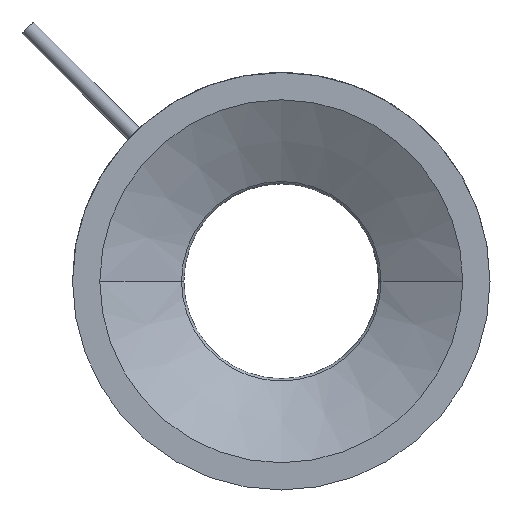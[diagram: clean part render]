
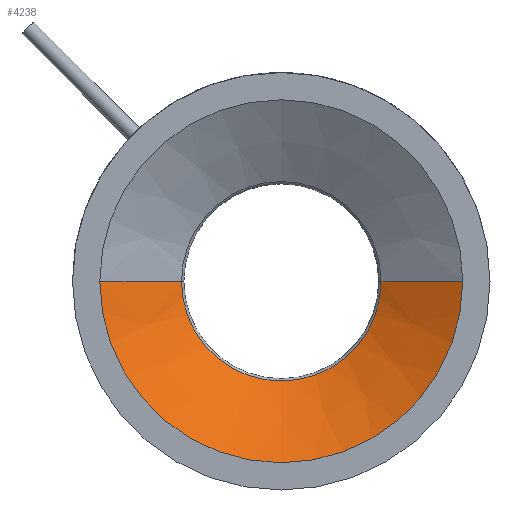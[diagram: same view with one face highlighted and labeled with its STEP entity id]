
A CAD part, front view. The second image highlights one B-rep face of the part: STEP entity #4238.
In plain terms, the highlighted conical face has half-angle 60 degrees and reference radius 30.311 mm.
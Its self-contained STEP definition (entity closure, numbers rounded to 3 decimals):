
#3975=CARTESIAN_POINT('',(0.,-11.826,0.));
#3976=DIRECTION('',(0.,-1.,0.));
#3977=DIRECTION('',(-1.,0.,0.));
#3978=AXIS2_PLACEMENT_3D('',#3975,#3976,#3977);
#3980=DIRECTION('',(-0.866,0.5,0.));
#3981=VECTOR('',#3980,20.349);
#3982=CARTESIAN_POINT('',(39.122,-22.,0.));
#3983=LINE('',#3982,#3981);
#3984=CARTESIAN_POINT('',(0.,-22.,0.));
#3985=DIRECTION('',(0.,-1.,0.));
#3986=DIRECTION('',(-1.,0.,0.));
#3987=AXIS2_PLACEMENT_3D('',#3984,#3985,#3986);
#3989=DIRECTION('',(0.866,0.5,0.));
#3990=VECTOR('',#3989,20.349);
#3991=CARTESIAN_POINT('',(-39.122,-22.,0.));
#3992=LINE('',#3991,#3990);
#4081=CARTESIAN_POINT('',(-39.122,-22.,0.));
#4082=CARTESIAN_POINT('',(39.122,-22.,0.));
#4083=VERTEX_POINT('',#4081);
#4084=VERTEX_POINT('',#4082);
#4105=CARTESIAN_POINT('',(-21.5,-11.826,0.));
#4106=CARTESIAN_POINT('',(21.5,-11.826,0.));
#4107=VERTEX_POINT('',#4105);
#4108=VERTEX_POINT('',#4106);
#4227=CARTESIAN_POINT('',(0.,-16.913,0.));
#4228=DIRECTION('',(0.,-1.,0.));
#4229=DIRECTION('',(-1.,0.,0.));
#4230=AXIS2_PLACEMENT_3D('',#4227,#4228,#4229);
#4231=CONICAL_SURFACE('',#4230,30.311,60.);
#4232=ORIENTED_EDGE('',*,*,#4221,.T.);
#4233=ORIENTED_EDGE('',*,*,#4165,.F.);
#4234=ORIENTED_EDGE('',*,*,#4150,.F.);
#4235=ORIENTED_EDGE('',*,*,#4162,.T.);
#4236=EDGE_LOOP('',(#4232,#4233,#4234,#4235));
#4237=FACE_OUTER_BOUND('',#4236,.F.);
#3979=CIRCLE('',#3978,21.5);
#3988=CIRCLE('',#3987,39.122);
#4150=EDGE_CURVE('',#4083,#4084,#3988,.T.);
#4162=EDGE_CURVE('',#4083,#4107,#3992,.T.);
#4165=EDGE_CURVE('',#4084,#4108,#3983,.T.);
#4221=EDGE_CURVE('',#4107,#4108,#3979,.T.);
#4238=ADVANCED_FACE('',(#4237),#4231,.F.);
